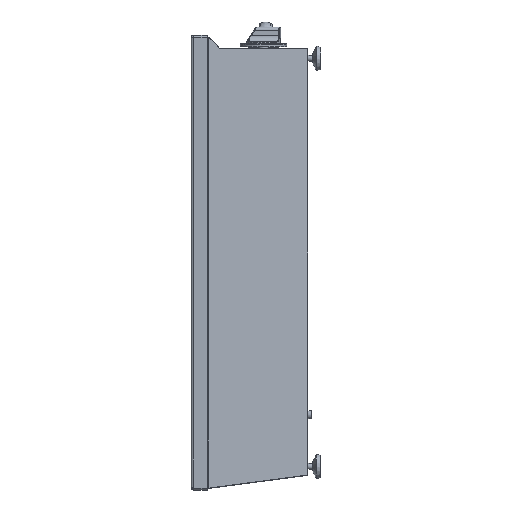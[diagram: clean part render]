
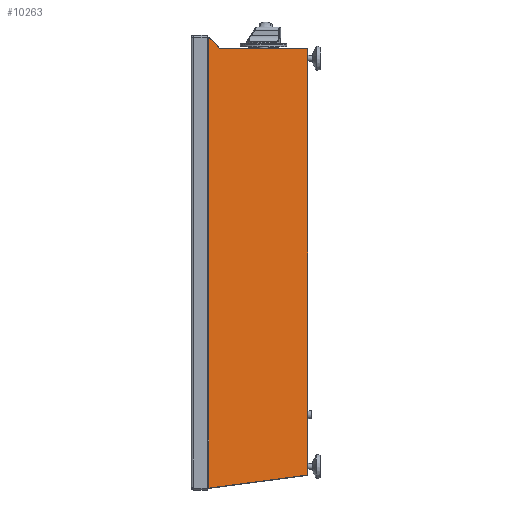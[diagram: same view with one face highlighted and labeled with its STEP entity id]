
A CAD part, left-side view. The second image highlights one B-rep face of the part: STEP entity #10263.
In plain terms, the highlighted planar face has unit normal (-0.992, -0.13, 0) by its records, which use the part's own axes.
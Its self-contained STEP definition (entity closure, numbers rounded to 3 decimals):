
#8 = CARTESIAN_POINT ( 'NONE',  ( -227.5, -176.5, -347.5 ) ) ;
#394 = CARTESIAN_POINT ( 'NONE',  ( -245.292, -40.833, 330.025 ) ) ;
#1558 = CARTESIAN_POINT ( 'NONE',  ( -247.5, -24., -346.99 ) ) ;
#1577 = DIRECTION ( 'NONE',  ( -0.092, 0.704, 0.704 ) ) ;
#1707 = ORIENTED_EDGE ( 'NONE', *, *, #29889, .T. ) ;
#1995 = CARTESIAN_POINT ( 'NONE',  ( -247.364, -25.039, 345.819 ) ) ;
#2320 = CARTESIAN_POINT ( 'NONE',  ( -247.5, -24., -344.475 ) ) ;
#2705 = VERTEX_POINT ( 'NONE', #27091 ) ;
#3444 = CARTESIAN_POINT ( 'NONE',  ( -245.205, -41.498, 329.36 ) ) ;
#3610 = CARTESIAN_POINT ( 'NONE',  ( -247.449, -24.388, -346.953 ) ) ;
#3799 = CARTESIAN_POINT ( 'NONE',  ( -244.968, -43.308, 329. ) ) ;
#3939 = CARTESIAN_POINT ( 'NONE',  ( -227.5, -176.5, 329. ) ) ;
#4199 = ORIENTED_EDGE ( 'NONE', *, *, #14575, .T. ) ;
#4709 =( BOUNDED_CURVE ( )  B_SPLINE_CURVE ( 3, ( #11572, #22737, #17332, #3610 ),
 .UNSPECIFIED., .F., .T. ) 
 B_SPLINE_CURVE_WITH_KNOTS ( ( 4, 4 ),
 ( 1.63, 1.701 ),
 .UNSPECIFIED. ) 
 CURVE ( )  GEOMETRIC_REPRESENTATION_ITEM ( )  RATIONAL_B_SPLINE_CURVE ( ( 1., 1., 1., 1. ) ) 
 REPRESENTATION_ITEM ( '' )  );
#5039 = ORIENTED_EDGE ( 'NONE', *, *, #15490, .T. ) ;
#5535 = LINE ( 'NONE', #35286, #31170 ) ;
#5591 = FACE_OUTER_BOUND ( 'NONE', #31283, .T. ) ;
#6082 = ORIENTED_EDGE ( 'NONE', *, *, #29601, .T. ) ;
#7024 = VERTEX_POINT ( 'NONE', #28971 ) ;
#7073 = VECTOR ( 'NONE', #31013, 1000. ) ;
#7284 = VECTOR ( 'NONE', #1577, 1000. ) ;
#7344 = CARTESIAN_POINT ( 'NONE',  ( -192.271, -445.119, -74.261 ) ) ;
#9203 = AXIS2_PLACEMENT_3D ( 'NONE', #8, #31042, #19675 ) ;
#10120 = CARTESIAN_POINT ( 'NONE',  ( -247.449, -24.388, -346.953 ) ) ;
#10263 = ADVANCED_FACE ( 'NONE', ( #5591 ), #11573, .F. ) ;
#10302 = CARTESIAN_POINT ( 'NONE',  ( -247.5, -24., 346.439 ) ) ;
#10327 = VERTEX_POINT ( 'NONE', #16787 ) ;
#10843 = DIRECTION ( 'NONE',  ( 0., 0., 1. ) ) ;
#10899 = VERTEX_POINT ( 'NONE', #32212 ) ;
#11572 = CARTESIAN_POINT ( 'NONE',  ( -247.5, -24., -346.99 ) ) ;
#11573 = PLANE ( 'NONE',  #9203 ) ;
#11932 = EDGE_CURVE ( 'NONE', #10899, #21801, #25232, .T. ) ;
#12089 = LINE ( 'NONE', #3939, #7073 ) ;
#12519 = EDGE_CURVE ( 'NONE', #14436, #2705, #5535, .T. ) ;
#13193 = CARTESIAN_POINT ( 'NONE',  ( -247.307, -25.469, 345.389 ) ) ;
#13548 = LINE ( 'NONE', #21651, #34501 ) ;
#13814 = VECTOR ( 'NONE', #21605, 1000. ) ;
#14336 = ORIENTED_EDGE ( 'NONE', *, *, #11932, .T. ) ;
#14436 = VERTEX_POINT ( 'NONE', #10120 ) ;
#14575 = EDGE_CURVE ( 'NONE', #26907, #7024, #22911, .T. ) ;
#15490 = EDGE_CURVE ( 'NONE', #21801, #26907, #29183, .T. ) ;
#15726 = CARTESIAN_POINT ( 'NONE',  ( -247.428, -24.545, 346.172 ) ) ;
#16787 = CARTESIAN_POINT ( 'NONE',  ( -227.5, -176.5, 329. ) ) ;
#17332 = CARTESIAN_POINT ( 'NONE',  ( -247.466, -24.259, -346.97 ) ) ;
#17520 = CARTESIAN_POINT ( 'NONE',  ( -245.091, -42.367, 329. ) ) ;
#19439 = DIRECTION ( 'NONE',  ( 0.129, -0.983, 0.129 ) ) ;
#19675 = DIRECTION ( 'NONE',  ( -0.13, 0.992, 0. ) ) ;
#20453 = ORIENTED_EDGE ( 'NONE', *, *, #20545, .T. ) ;
#20545 = EDGE_CURVE ( 'NONE', #10327, #10899, #12089, .T. ) ;
#21605 = DIRECTION ( 'NONE',  ( 0., 0., -1. ) ) ;
#21651 = CARTESIAN_POINT ( 'NONE',  ( -227.5, -176.5, -347.5 ) ) ;
#21801 = VERTEX_POINT ( 'NONE', #394 ) ;
#22258 = ORIENTED_EDGE ( 'NONE', *, *, #26265, .T. ) ;
#22737 = CARTESIAN_POINT ( 'NONE',  ( -247.483, -24.13, -346.983 ) ) ;
#22911 =( BOUNDED_CURVE ( )  B_SPLINE_CURVE ( 3, ( #13193, #1995, #15726, #10302 ),
 .UNSPECIFIED., .F., .T. ) 
 B_SPLINE_CURVE_WITH_KNOTS ( ( 4, 4 ),
 ( 3.927, 4.257 ),
 .UNSPECIFIED. ) 
 CURVE ( )  GEOMETRIC_REPRESENTATION_ITEM ( )  RATIONAL_B_SPLINE_CURVE ( ( 1., 0.991, 0.991, 1. ) ) 
 REPRESENTATION_ITEM ( '' )  );
#25232 =( BOUNDED_CURVE ( )  B_SPLINE_CURVE ( 3, ( #3799, #17520, #3444, #28710 ),
 .UNSPECIFIED., .F., .T. ) 
 B_SPLINE_CURVE_WITH_KNOTS ( ( 4, 4 ),
 ( 4.712, 5.498 ),
 .UNSPECIFIED. ) 
 CURVE ( )  GEOMETRIC_REPRESENTATION_ITEM ( )  RATIONAL_B_SPLINE_CURVE ( ( 1., 0.949, 0.949, 1. ) ) 
 REPRESENTATION_ITEM ( '' )  );
#25859 = VERTEX_POINT ( 'NONE', #1558 ) ;
#26265 = EDGE_CURVE ( 'NONE', #2705, #10327, #13548, .T. ) ;
#26907 = VERTEX_POINT ( 'NONE', #32895 ) ;
#27091 = CARTESIAN_POINT ( 'NONE',  ( -227.5, -176.5, -327.004 ) ) ;
#28710 = CARTESIAN_POINT ( 'NONE',  ( -245.292, -40.833, 330.025 ) ) ;
#28971 = CARTESIAN_POINT ( 'NONE',  ( -247.5, -24., 346.439 ) ) ;
#29183 = LINE ( 'NONE', #7344, #7284 ) ;
#29348 = ORIENTED_EDGE ( 'NONE', *, *, #12519, .T. ) ;
#29601 = EDGE_CURVE ( 'NONE', #25859, #14436, #4709, .T. ) ;
#29726 = LINE ( 'NONE', #2320, #13814 ) ;
#29889 = EDGE_CURVE ( 'NONE', #7024, #25859, #29726, .T. ) ;
#31013 = DIRECTION ( 'NONE',  ( -0.13, 0.992, 0. ) ) ;
#31042 = DIRECTION ( 'NONE',  ( 0.992, 0.13, 0. ) ) ;
#31170 = VECTOR ( 'NONE', #19439, 1000. ) ;
#31283 = EDGE_LOOP ( 'NONE', ( #1707, #6082, #29348, #22258, #20453, #14336, #5039, #4199 ) ) ;
#32212 = CARTESIAN_POINT ( 'NONE',  ( -244.968, -43.308, 329. ) ) ;
#32895 = CARTESIAN_POINT ( 'NONE',  ( -247.307, -25.469, 345.389 ) ) ;
#34501 = VECTOR ( 'NONE', #10843, 1000. ) ;
#35286 = CARTESIAN_POINT ( 'NONE',  ( -227.841, -173.901, -327.345 ) ) ;
